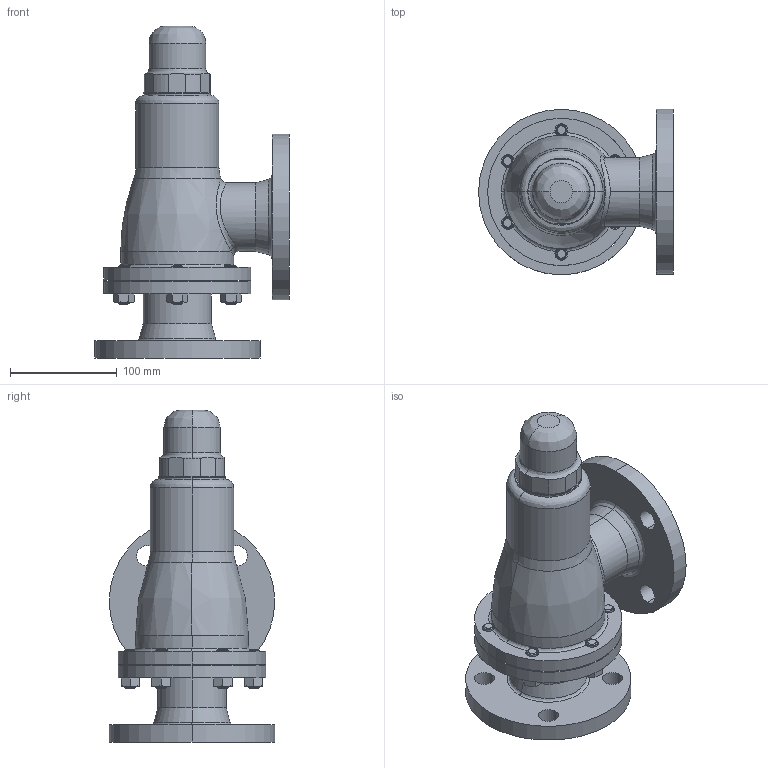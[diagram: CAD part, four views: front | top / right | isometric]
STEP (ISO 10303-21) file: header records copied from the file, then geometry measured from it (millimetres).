
FILE_DESCRIPTION( (''), '2;1');
FILE_NAME ('PC1029.10648.AL-300,301,300T,301T 50A_5590.stp','2024-12-13T15:01:32',(''),(''),'spGate 19.8.4 (****-****-****-****)','','');
FILE_SCHEMA (('AUTOMOTIVE_DESIGN'));
Length unit declared in the file: millimetre
Products named in the file (4): Assembly; ばねカバー・本体50A; スタッドボルト＆ナット32-50A; AL-300 32-50A キャップ
Assembly tree (8 placements, depth 2):
  Assembly
    ばねカバー・本体50A
    スタッドボルト＆ナット32-50A  x6
    AL-300 32-50A キャップ
Bounding box: 182.5 x 155 x 311 mm (x, y, z)
Volume: 2329159.1 mm3; surface area: 227760.1 mm2
Topology: 8 solids, 8 shells, 242 faces, 593 edges, 382 vertices
Faces by surface type: cylinder 98, plane 86, bspline 58
Entity records: 8662 total; most frequent: CARTESIAN_POINT 2308, ORIENTED_EDGE 736, DIRECTION 696, COLOUR_RGB 513, PRESENTATION_STYLE_ASSIGNMENT 513, STYLED_ITEM 513, EDGE_CURVE 368, DRAUGHTING_PRE_DEFINED_CURVE_FONT 368
